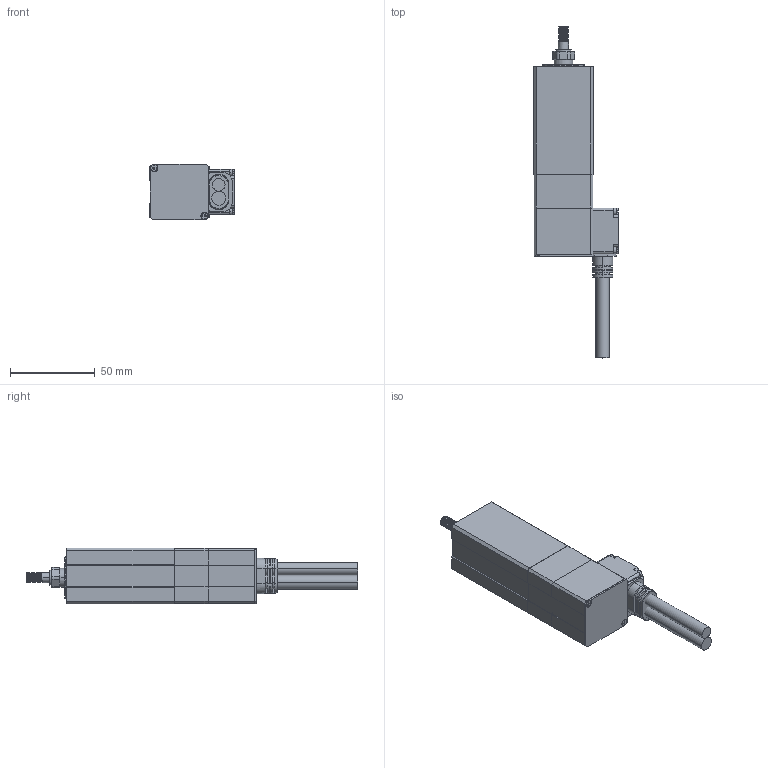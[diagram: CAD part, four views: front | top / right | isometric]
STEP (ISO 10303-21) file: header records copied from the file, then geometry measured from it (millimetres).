
FILE_DESCRIPTION (( 'STEP AP203' ), '1' );
FILE_NAME ('RCEA-3M-30-E-W-F_潠眢耀倰V1.0_20250311.STEP', '2025-03-11T06:28:47', ( '' ), ( '' ), 'SwSTEP 2.0', 'SolidWorks 2020', '' );
FILE_SCHEMA (( 'CONFIG_CONTROL_DESIGN' ));
Length unit declared in the file: millimetre
Products named in the file (4): Group5^RCEA-3M-30-E-W-F_潠眢耀倰V1.0_20250311; RCEA-3M-30-E-W-F_潠眢耀倰V1.0_20250311; Group4^RCEA-3M-30-E-W-F_潠眢耀倰V1.0_20250311; Group6^RCEA-3M-30-E-W-F_潠眢耀倰V1.0_20250311
Assembly tree (3 placements, depth 2):
  RCEA-3M-30-E-W-F_潠眢耀倰V1.0_20250311
    Group4^RCEA-3M-30-E-W-F_潠眢耀倰V1.0_20250311
    Group5^RCEA-3M-30-E-W-F_潠眢耀倰V1.0_20250311
    Group6^RCEA-3M-30-E-W-F_潠眢耀倰V1.0_20250311
Bounding box: 49.85 x 196 x 33 mm (x, y, z)
Volume: 105932.8 mm3; surface area: 42867.4 mm2
Topology: 9 solids, 22 shells, 737 faces, 1860 edges, 1179 vertices
Faces by surface type: plane 310, cylinder 297, cone 114, bspline 10, torus 6
Entity records: 25693 total; most frequent: CARTESIAN_POINT 7659, DIRECTION 3727, ORIENTED_EDGE 3664, EDGE_CURVE 1834, AXIS2_PLACEMENT_3D 1325, VERTEX_POINT 1179, LINE 1077, VECTOR 1077
